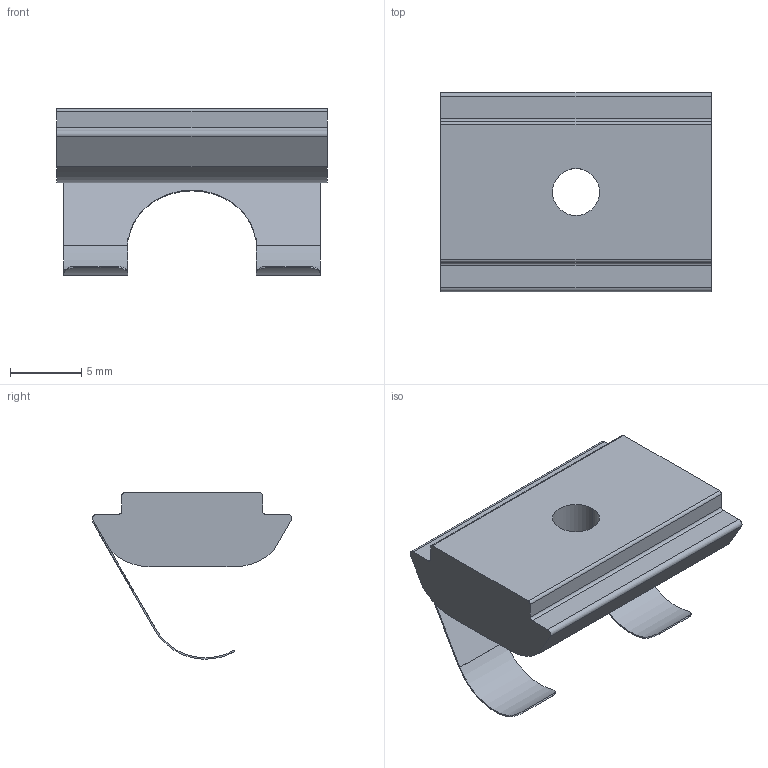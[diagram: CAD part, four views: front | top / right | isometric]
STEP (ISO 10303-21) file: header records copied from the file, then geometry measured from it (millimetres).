
FILE_DESCRIPTION (( 'STEP AP203' ), '1' );
FILE_NAME ('0110NSM4STF.STEP', '2024-03-05T13:36:51', ( 'Windows-Benutzer' ), ( '' ), 'SwSTEP 2.0', 'SolidWorks 2023', '' );
FILE_SCHEMA (( 'CONFIG_CONTROL_DESIGN' ));
Length unit declared in the file: millimetre
Products named in the file (1): 0110NSM4STF
Bounding box: 19 x 14.02 x 11.7 mm (x, y, z)
Volume: 1095 mm3; surface area: 1093.3 mm2
Topology: 1 solids, 1 shells, 43 faces, 123 edges, 82 vertices
Faces by surface type: plane 23, cylinder 20
Entity records: 1537 total; most frequent: CARTESIAN_POINT 331, ORIENTED_EDGE 246, DIRECTION 227, EDGE_CURVE 123, VERTEX_POINT 82, AXIS2_PLACEMENT_3D 78, LINE 71, VECTOR 71
